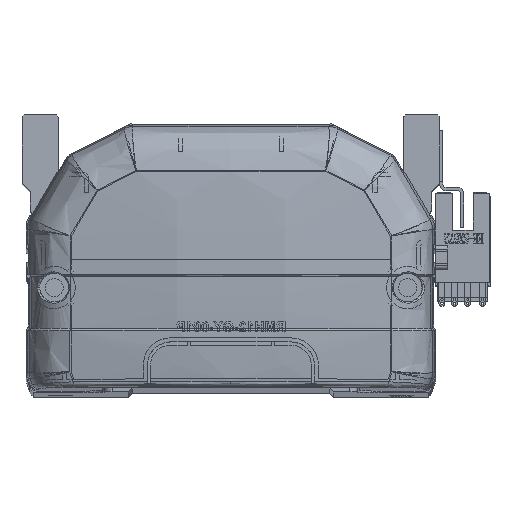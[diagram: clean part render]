
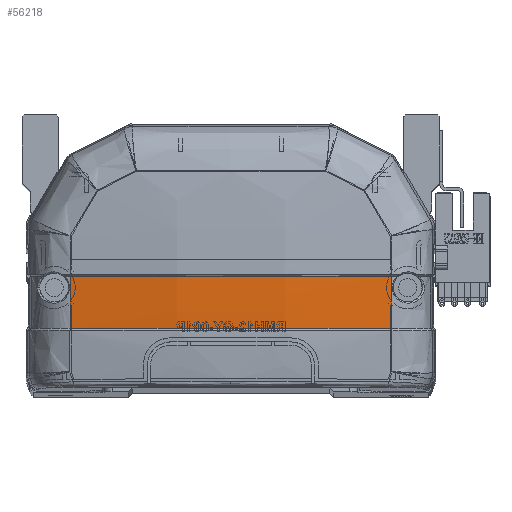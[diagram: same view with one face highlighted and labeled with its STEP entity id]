
A CAD part, top view. The second image highlights one B-rep face of the part: STEP entity #56218.
In plain terms, the highlighted free-form (B-spline) face has degree [3, 3] with [4, 4] control points.
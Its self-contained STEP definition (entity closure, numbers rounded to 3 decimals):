
#725 = CARTESIAN_POINT ( 'NONE',  ( 39.985, 15.83, -5.879 ) ) ;
#1646 = CARTESIAN_POINT ( 'NONE',  ( 13.598, 15.499, -10.032 ) ) ;
#2253 = CARTESIAN_POINT ( 'NONE',  ( 40.461, 15.757, -5.8 ) ) ;
#2380 = VERTEX_POINT ( 'NONE', #15746 ) ;
#4612 = ORIENTED_EDGE ( 'NONE', *, *, #9838, .T. ) ;
#6112 = CARTESIAN_POINT ( 'NONE',  ( 39.963, 28.706, -6.372 ) ) ;
#7099 = CARTESIAN_POINT ( 'NONE',  ( 40.461, 28.832, -6.296 ) ) ;
#8103 = CARTESIAN_POINT ( 'NONE',  ( -39.985, 15.83, -5.879 ) ) ;
#8257 = ORIENTED_EDGE ( 'NONE', *, *, #39602, .F. ) ;
#8477 = B_SPLINE_CURVE_WITH_KNOTS ( 'NONE', 3,
 ( #725, #33094, #38765, #11086 ),
 .UNSPECIFIED., .F., .F.,
 ( 4, 4 ),
 ( 0., 1. ),
 .UNSPECIFIED. ) ;
#8504 = CARTESIAN_POINT ( 'NONE',  ( -39.963, 28.706, -6.372 ) ) ;
#9374 = B_SPLINE_CURVE_WITH_KNOTS ( 'NONE', 3,
 ( #10071, #18911, #33270, #37948, #9864, #15068, #14283, #56618, #56247, #24134 ),
 .UNSPECIFIED., .F., .F.,
 ( 4, 2, 2, 2, 4 ),
 ( 0., 0.04, 0.06, 0.07, 0.08 ),
 .UNSPECIFIED. ) ;
#9838 = EDGE_CURVE ( 'NONE', #43294, #19000, #19708, .T. ) ;
#9864 = CARTESIAN_POINT ( 'NONE',  ( -13.384, 15.83, -8.724 ) ) ;
#10071 = CARTESIAN_POINT ( 'NONE',  ( 39.985, 15.83, -5.879 ) ) ;
#11006 = CARTESIAN_POINT ( 'NONE',  ( 13.598, 24.342, -10.47 ) ) ;
#11086 = CARTESIAN_POINT ( 'NONE',  ( 39.963, 28.706, -6.372 ) ) ;
#11406 = CARTESIAN_POINT ( 'NONE',  ( -40.461, 15.757, -5.8 ) ) ;
#11616 = CARTESIAN_POINT ( 'NONE',  ( 40.461, 24.47, -6.231 ) ) ;
#13972 = CARTESIAN_POINT ( 'NONE',  ( -39.963, 28.706, -6.372 ) ) ;
#14283 = CARTESIAN_POINT ( 'NONE',  ( -26.721, 15.83, -7.624 ) ) ;
#15068 = CARTESIAN_POINT ( 'NONE',  ( -23.389, 15.83, -7.947 ) ) ;
#15413 = CARTESIAN_POINT ( 'NONE',  ( -13.598, 24.342, -10.47 ) ) ;
#15625 = CARTESIAN_POINT ( 'NONE',  ( -40.461, 28.832, -6.296 ) ) ;
#15746 = CARTESIAN_POINT ( 'NONE',  ( 39.985, 15.83, -5.879 ) ) ;
#16034 = CARTESIAN_POINT ( 'NONE',  ( 13.598, 19.918, -10.302 ) ) ;
#16383 = EDGE_CURVE ( 'NONE', #2380, #38859, #8477, .T. ) ;
#18911 = CARTESIAN_POINT ( 'NONE',  ( 26.761, 15.83, -7.945 ) ) ;
#19000 = VERTEX_POINT ( 'NONE', #50966 ) ;
#19708 = B_SPLINE_CURVE_WITH_KNOTS ( 'NONE', 3,
 ( #8504, #49469, #45152, #8103 ),
 .UNSPECIFIED., .F., .F.,
 ( 4, 4 ),
 ( 0., 1. ),
 .UNSPECIFIED. ) ;
#20475 = CARTESIAN_POINT ( 'NONE',  ( 13.598, 28.769, -10.535 ) ) ;
#20618 = CARTESIAN_POINT ( 'NONE',  ( -39.963, 28.706, -6.372 ) ) ;
#20675 = CARTESIAN_POINT ( 'NONE',  ( -13.598, 28.769, -10.535 ) ) ;
#24134 = CARTESIAN_POINT ( 'NONE',  ( -39.985, 15.83, -5.879 ) ) ;
#28562 = FACE_OUTER_BOUND ( 'NONE', #39086, .T. ) ;
#29587 = CARTESIAN_POINT ( 'NONE',  ( 40.461, 20.111, -6.066 ) ) ;
#30103 = CARTESIAN_POINT ( 'NONE',  ( 13.375, 28.707, -9.468 ) ) ;
#30298 = CARTESIAN_POINT ( 'NONE',  ( -13.373, 28.707, -9.468 ) ) ;
#30482 = CARTESIAN_POINT ( 'NONE',  ( 26.749, 28.706, -8.432 ) ) ;
#33094 = CARTESIAN_POINT ( 'NONE',  ( 39.973, 20.12, -6.142 ) ) ;
#33270 = CARTESIAN_POINT ( 'NONE',  ( 13.38, 15.83, -8.984 ) ) ;
#33724 = ORIENTED_EDGE ( 'NONE', *, *, #16383, .T. ) ;
#33984 =( BOUNDED_SURFACE ( )  B_SPLINE_SURFACE ( 3, 3, ( 
 ( #2253, #29587, #11616, #7099 ),
 ( #1646, #16034, #11006, #20475 ),
 ( #39497, #43163, #15413, #20675 ),
 ( #11406, #57161, #52945, #15625 ) ),
 .UNSPECIFIED., .F., .F., .T. ) 
 B_SPLINE_SURFACE_WITH_KNOTS ( ( 4, 4 ),
 ( 4, 4 ),
 ( 0., 1. ),
 ( 0., 1. ),
 .UNSPECIFIED. ) 
 GEOMETRIC_REPRESENTATION_ITEM ( )  RATIONAL_B_SPLINE_SURFACE ( (
 ( 1., 1., 1., 1.),
 ( 0.992, 0.992, 0.992, 0.992),
 ( 0.992, 0.992, 0.992, 0.992),
 ( 1., 1., 1., 1.) ) ) 
 REPRESENTATION_ITEM ( '' )  SURFACE ( )  );
#35179 = CARTESIAN_POINT ( 'NONE',  ( 39.963, 28.706, -6.372 ) ) ;
#37948 = CARTESIAN_POINT ( 'NONE',  ( -6.692, 15.83, -8.984 ) ) ;
#38765 = CARTESIAN_POINT ( 'NONE',  ( 39.966, 24.413, -6.306 ) ) ;
#38859 = VERTEX_POINT ( 'NONE', #6112 ) ;
#39086 = EDGE_LOOP ( 'NONE', ( #33724, #8257, #4612, #57247 ) ) ;
#39497 = CARTESIAN_POINT ( 'NONE',  ( -13.598, 15.499, -10.032 ) ) ;
#39602 = EDGE_CURVE ( 'NONE', #43294, #38859, #39621, .T. ) ;
#39621 = B_SPLINE_CURVE_WITH_KNOTS ( 'NONE', 3,
 ( #20618, #48829, #30298, #30103, #30482, #35179 ),
 .UNSPECIFIED., .F., .F.,
 ( 4, 2, 4 ),
 ( 0., 0.5, 1. ),
 .UNSPECIFIED. ) ;
#43163 = CARTESIAN_POINT ( 'NONE',  ( -13.598, 19.918, -10.302 ) ) ;
#43294 = VERTEX_POINT ( 'NONE', #13972 ) ;
#45152 = CARTESIAN_POINT ( 'NONE',  ( -39.973, 20.118, -6.142 ) ) ;
#48829 = CARTESIAN_POINT ( 'NONE',  ( -26.748, 28.706, -8.432 ) ) ;
#49469 = CARTESIAN_POINT ( 'NONE',  ( -39.966, 24.412, -6.306 ) ) ;
#50966 = CARTESIAN_POINT ( 'NONE',  ( -39.985, 15.83, -5.879 ) ) ;
#52945 = CARTESIAN_POINT ( 'NONE',  ( -40.461, 24.47, -6.231 ) ) ;
#56218 = ADVANCED_FACE ( 'NONE', ( #28562 ), #33984, .F. ) ;
#56247 = CARTESIAN_POINT ( 'NONE',  ( -36.679, 15.83, -6.395 ) ) ;
#56618 = CARTESIAN_POINT ( 'NONE',  ( -33.365, 15.83, -6.848 ) ) ;
#57161 = CARTESIAN_POINT ( 'NONE',  ( -40.461, 20.111, -6.066 ) ) ;
#57247 = ORIENTED_EDGE ( 'NONE', *, *, #58319, .F. ) ;
#58319 = EDGE_CURVE ( 'NONE', #2380, #19000, #9374, .T. ) ;
